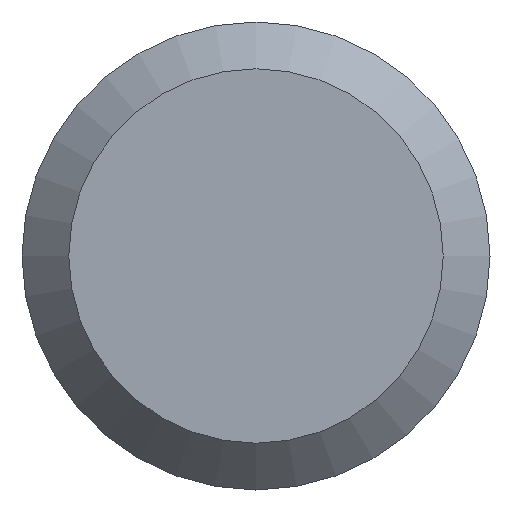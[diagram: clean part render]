
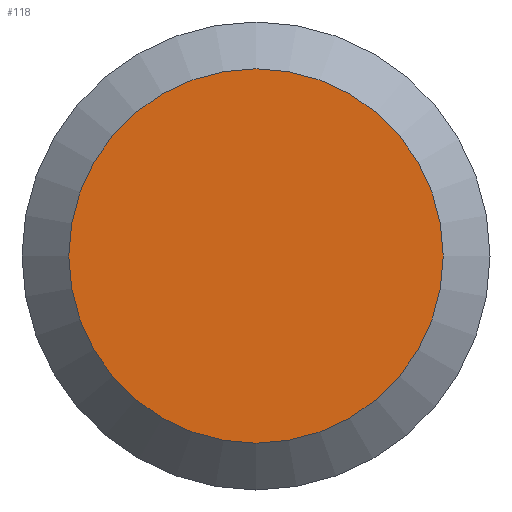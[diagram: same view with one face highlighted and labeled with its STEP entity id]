
A CAD part, left-side view. The second image highlights one B-rep face of the part: STEP entity #118.
In plain terms, the highlighted planar face has unit normal (-1, 0, 0).
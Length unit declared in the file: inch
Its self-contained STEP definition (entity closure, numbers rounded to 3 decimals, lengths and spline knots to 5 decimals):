
#1 = AXIS2_PLACEMENT_3D ( 'NONE', #70, #147, #151 ) ;
#61 = CARTESIAN_POINT ( 'NONE',  ( 0., 0., 0. ) ) ;
#63 = VERTEX_POINT ( 'NONE', #114 ) ;
#70 = CARTESIAN_POINT ( 'NONE',  ( 0., 0.06, 0. ) ) ;
#86 = DIRECTION ( 'NONE',  ( -1., 0., 0. ) ) ;
#91 = ORIENTED_EDGE ( 'NONE', *, *, #226, .T. ) ;
#103 = FACE_OUTER_BOUND ( 'NONE', #127, .T. ) ;
#104 = AXIS2_PLACEMENT_3D ( 'NONE', #61, #86, #205 ) ;
#114 = CARTESIAN_POINT ( 'NONE',  ( 0., 0., -0.048 ) ) ;
#118 = ADVANCED_FACE ( 'NONE', ( #103 ), #133, .F. ) ;
#127 = EDGE_LOOP ( 'NONE', ( #91 ) ) ;
#133 = PLANE ( 'NONE',  #1 ) ;
#147 = DIRECTION ( 'NONE',  ( 1., 0., 0. ) ) ;
#150 = CIRCLE ( 'NONE', #104, 0.048 ) ;
#151 = DIRECTION ( 'NONE',  ( 0., 0., -1. ) ) ;
#205 = DIRECTION ( 'NONE',  ( 0., 0., -1. ) ) ;
#226 = EDGE_CURVE ( 'NONE', #63, #63, #150, .T. ) ;
